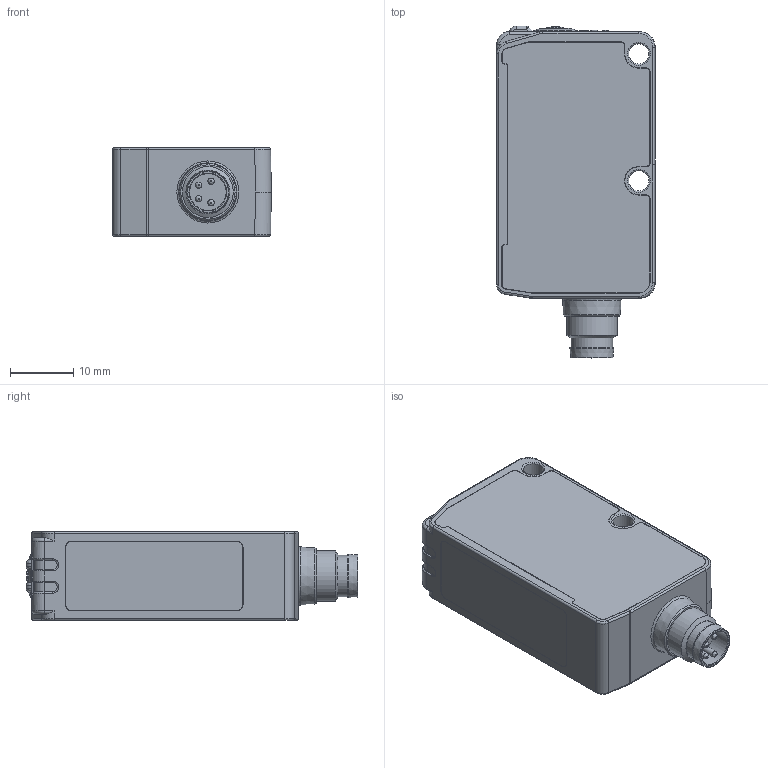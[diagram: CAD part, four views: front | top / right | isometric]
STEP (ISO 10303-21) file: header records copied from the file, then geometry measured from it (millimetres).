
FILE_DESCRIPTION(/* description */ (''),/* implementation_level */ '2;1');
FILE_NAME(/* name */ 'AP016426_00_STP_DSD-0968_S8-PH-B53-IO_Link.stp',/* time_stamp */ '2019-06-06T12:05:37+02:00',/* author */ (''),/* organization */ (''),/* preprocessor_version */ 'ST-DEVELOPER v16',/* originating_system */ 'SIEMENS PLM Software NX 10.0',/* authorisation */ '');
FILE_SCHEMA (('AUTOMOTIVE_DESIGN { 1 0 10303 214 3 1 1 1 }'));
Length unit declared in the file: millimetre
Products named in the file (1): AP016426_00
Bounding box: 25 x 52.3 x 14 mm (x, y, z)
Volume: 16005.7 mm3; surface area: 7614.1 mm2
Topology: 3 solids, 3 shells, 417 faces, 1049 edges, 654 vertices
Faces by surface type: cylinder 170, plane 143, bspline 58, torus 21, cone 17, sphere 6, extrusion 2
Full cylindrical faces by diameter (mm): 1 x4, 1.4 x2, 1.5 x1, 2.55 x1, 2.85 x1, 2.95 x1, 3.2 x2, 4.2 x1, 5.77 x1, 6.52 x1, 6.9 x1, 8 x1
Entity records: 14735 total; most frequent: CARTESIAN_POINT 4102, DIRECTION 2043, ORIENTED_EDGE 1948, EDGE_CURVE 974, AXIS2_PLACEMENT_3D 772, VERTEX_POINT 639, EDGE_LOOP 499, VECTOR 499
